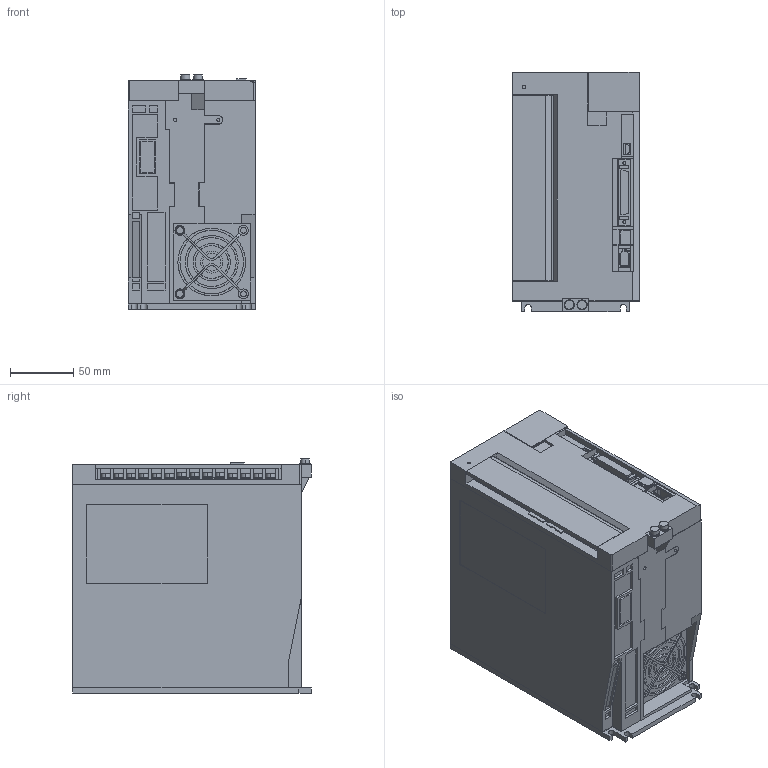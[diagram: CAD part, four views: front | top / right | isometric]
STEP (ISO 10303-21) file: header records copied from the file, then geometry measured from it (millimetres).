
FILE_DESCRIPTION((''),'2;1');
FILE_NAME('SGDXS-200A00A_ASM','2022-02-24T',('liubing_shen'),('Yaskawa Electric (Shenyang) Co.,Ltd'),'PRO/ENGINEER BY PARAMETRIC TECHNOLOGY CORPORATION, 2017170','PRO/ENGINEER BY PARAMETRIC TECHNOLOGY CORPORATION, 2017170','');
FILE_SCHEMA(('AUTOMOTIVE_DESIGN { 1 0 10303 214 1 1 1 1 }'));
Products named in the file (7): SGDXS-200A00A_BASE; SGDXS-200A00A_COVER1; SGDXS-200A00A_COVER2; SGDXS-200A00A_COVER3; SGDXS-200A00A_COVER4; SGDXS-200A00A_CONNECTOR; SGDXS-200A00A_ASM
Assembly tree (6 placements, depth 2):
  SGDXS-200A00A_ASM
    SGDXS-200A00A_BASE
    SGDXS-200A00A_COVER1
    SGDXS-200A00A_COVER2
    SGDXS-200A00A_COVER3
    SGDXS-200A00A_COVER4
    SGDXS-200A00A_CONNECTOR
Bounding box: 100.5 x 188 x 184.4 mm (x, y, z)
Volume: 3110607.7 mm3; surface area: 196260.2 mm2
Topology: 6 solids, 6 shells, 1904 faces, 5450 edges, 3664 vertices
Faces by surface type: plane 1585, cylinder 292, torus 14, cone 10, bspline 3
Entity records: 78532 total; most frequent: CARTESIAN_POINT 11399, ORIENTED_EDGE 10900, DIRECTION 10054, EDGE_CURVE 5450, VECTOR 4582, LINE 4582, VERTEX_POINT 3664, AXIS2_PLACEMENT_3D 2736
